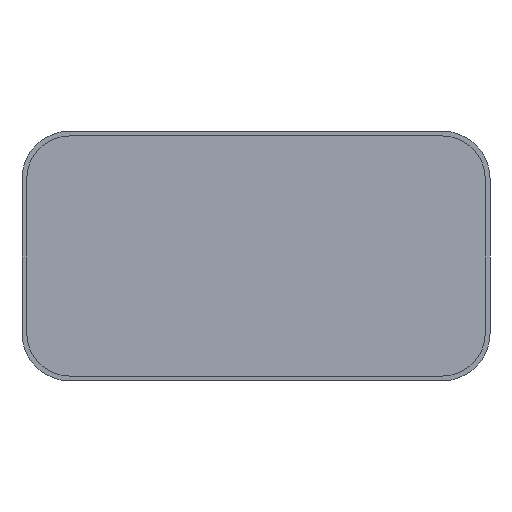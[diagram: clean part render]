
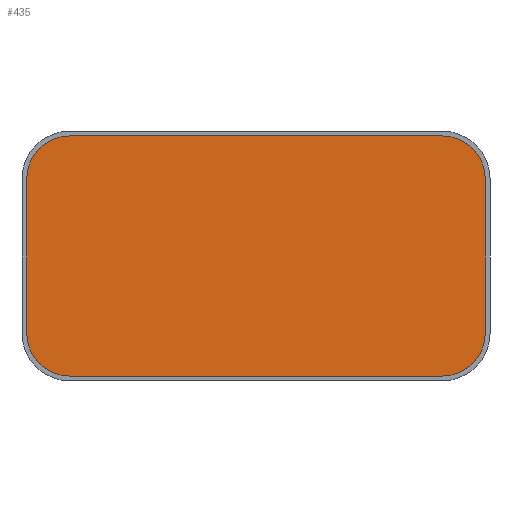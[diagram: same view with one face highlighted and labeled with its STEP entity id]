
A CAD part, front view. The second image highlights one B-rep face of the part: STEP entity #435.
In plain terms, the highlighted planar face has unit normal (0, -1, 0).
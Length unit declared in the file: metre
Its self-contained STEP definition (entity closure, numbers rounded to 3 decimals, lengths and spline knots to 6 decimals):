
#17=CIRCLE('',#470,0.00304);
#19=CIRCLE('',#474,0.00304);
#21=CIRCLE('',#478,0.00304);
#23=CIRCLE('',#482,0.00304);
#88=ORIENTED_EDGE('',*,*,#186,.T.);
#89=ORIENTED_EDGE('',*,*,#207,.F.);
#90=ORIENTED_EDGE('',*,*,#204,.F.);
#91=ORIENTED_EDGE('',*,*,#201,.F.);
#92=ORIENTED_EDGE('',*,*,#198,.F.);
#93=ORIENTED_EDGE('',*,*,#195,.F.);
#94=ORIENTED_EDGE('',*,*,#192,.T.);
#95=ORIENTED_EDGE('',*,*,#189,.F.);
#186=EDGE_CURVE('',#251,#250,#290,.T.);
#189=EDGE_CURVE('',#251,#253,#17,.T.);
#192=EDGE_CURVE('',#255,#253,#294,.T.);
#195=EDGE_CURVE('',#255,#257,#19,.T.);
#198=EDGE_CURVE('',#257,#259,#298,.T.);
#201=EDGE_CURVE('',#259,#261,#21,.T.);
#204=EDGE_CURVE('',#261,#263,#302,.T.);
#207=EDGE_CURVE('',#263,#250,#23,.T.);
#250=VERTEX_POINT('',#676);
#251=VERTEX_POINT('',#678);
#253=VERTEX_POINT('',#684);
#255=VERTEX_POINT('',#690);
#257=VERTEX_POINT('',#696);
#259=VERTEX_POINT('',#702);
#261=VERTEX_POINT('',#708);
#263=VERTEX_POINT('',#714);
#290=LINE('',#677,#326);
#294=LINE('',#689,#330);
#298=LINE('',#701,#334);
#302=LINE('',#713,#338);
#326=VECTOR('',#528,1.);
#330=VECTOR('',#540,1.);
#334=VECTOR('',#552,1.);
#338=VECTOR('',#564,1.);
#368=EDGE_LOOP('',(#88,#89,#90,#91,#92,#93,#94,#95));
#396=FACE_BOUND('',#368,.T.);
#420=PLANE('',#483);
#435=ADVANCED_FACE('',(#396),#420,.F.);
#470=AXIS2_PLACEMENT_3D('',#683,#534,#535);
#474=AXIS2_PLACEMENT_3D('',#695,#546,#547);
#478=AXIS2_PLACEMENT_3D('',#707,#558,#559);
#482=AXIS2_PLACEMENT_3D('',#718,#570,#571);
#483=AXIS2_PLACEMENT_3D('',#719,#572,#573);
#528=DIRECTION('',(0.,0.,1.));
#534=DIRECTION('',(0.,1.,0.));
#535=DIRECTION('',(1.,0.,0.));
#540=DIRECTION('',(1.,0.,0.));
#546=DIRECTION('',(0.,1.,0.));
#547=DIRECTION('',(0.,0.,-1.));
#552=DIRECTION('',(0.,0.,1.));
#558=DIRECTION('',(0.,1.,0.));
#559=DIRECTION('',(-1.,0.,0.));
#564=DIRECTION('',(1.,0.,0.));
#570=DIRECTION('',(0.,1.,0.));
#571=DIRECTION('',(0.,0.,1.));
#572=DIRECTION('',(0.,1.,0.));
#573=DIRECTION('',(1.,0.,0.));
#676=CARTESIAN_POINT('',(0.159152,0.01076,0.084011));
#677=CARTESIAN_POINT('',(0.159152,0.01076,0.078503));
#678=CARTESIAN_POINT('',(0.159152,0.01076,0.072994));
#683=CARTESIAN_POINT('',(0.156112,0.01076,0.072994));
#684=CARTESIAN_POINT('',(0.156112,0.01076,0.069954));
#689=CARTESIAN_POINT('',(0.142823,0.01076,0.069954));
#690=CARTESIAN_POINT('',(0.129535,0.01076,0.069954));
#695=CARTESIAN_POINT('',(0.129535,0.01076,0.072994));
#696=CARTESIAN_POINT('',(0.126495,0.01076,0.072994));
#701=CARTESIAN_POINT('',(0.126495,0.01076,0.078503));
#702=CARTESIAN_POINT('',(0.126495,0.01076,0.084011));
#707=CARTESIAN_POINT('',(0.129535,0.01076,0.084011));
#708=CARTESIAN_POINT('',(0.129535,0.01076,0.087051));
#713=CARTESIAN_POINT('',(0.142823,0.01076,0.087051));
#714=CARTESIAN_POINT('',(0.156112,0.01076,0.087051));
#718=CARTESIAN_POINT('',(0.156112,0.01076,0.084011));
#719=CARTESIAN_POINT('',(0.142823,0.01076,0.078503));
